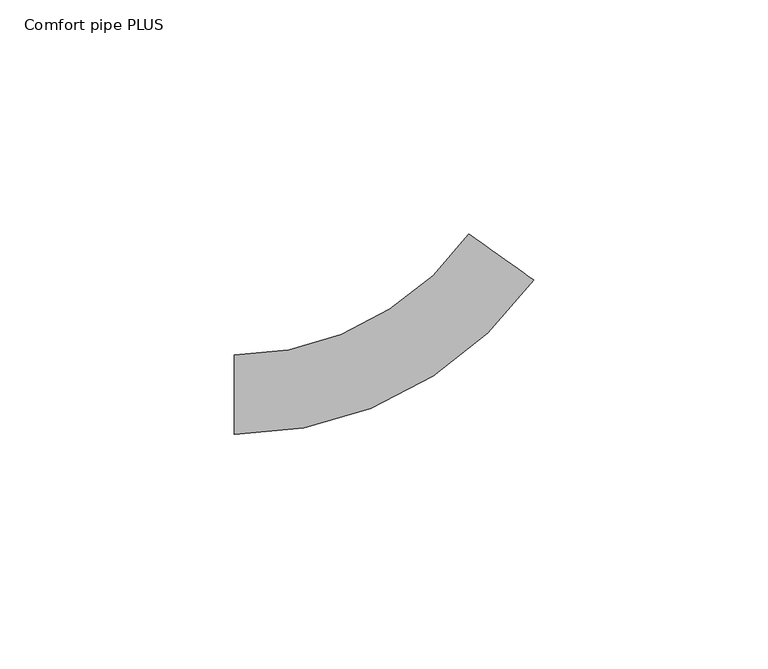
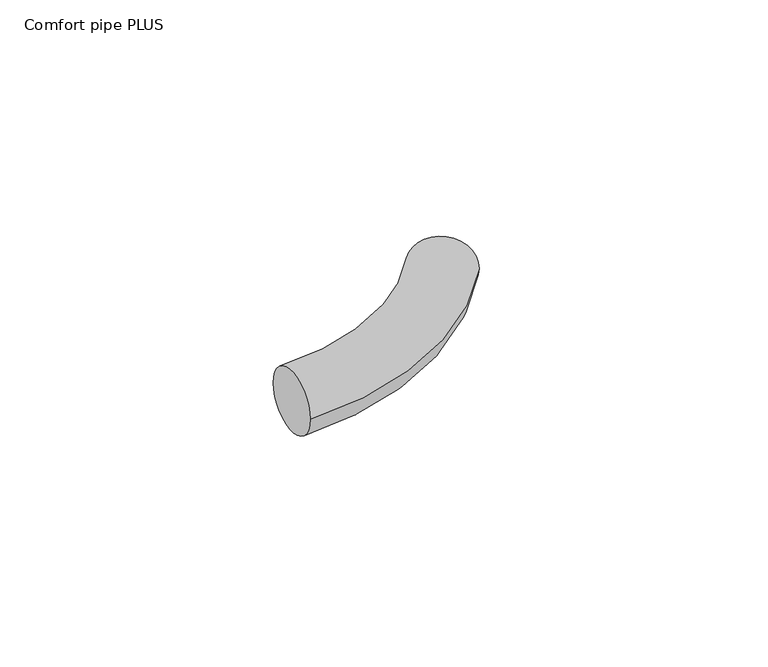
"""IFC4 building model written with IfcOpenShell, lengths in millimetres: pipe fitting geometry, 400_5-_Uponor_curved_Elbow : Comfort pipe PLUS."""

from ifc_helpers import new_model, si_unit, point, frame, origin, place, context, project, spatial, circle_curve, ellipse_curve, trimmed, source, transform, mapped, element, save
from ifc_brep_helpers import plane_surface, revolved_surface, advanced_brep


def comfort_pipe_plus_dd33a695(model_context):
    return source(origin(), model_context, "Body", "AdvancedBrep", [
        advanced_brep(
        [(-36.0856303, -8.5, 0.0), (-36.0856303, 8.5, 0.0), (27.8566517, 24.4628222, 0.0), (14.0092786, 34.3243766, 0.0)],
        [
            (0, 1, circle_curve(frame((-36.0856303, 0.0, 0.0), z_axis=(-1.0, 0.0, 0.0), x_axis=(0.0, 1.0, 0.0)), 8.5)),
            (1, 0, circle_curve(frame((-36.0856303, 0.0, 0.0), z_axis=(-1.0, 0.0, 0.0), x_axis=(0.0, 1.0, 0.0)), 8.5)),
            (2, 3, circle_curve(frame((20.9329652, 29.3935994, 0.0), z_axis=(0.5800914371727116, 0.8145513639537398, 0.0), x_axis=(-0.8145513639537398, 0.5800914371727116, 0.0)), 8.5)),
            (3, 2, circle_curve(frame((20.9329652, 29.3935994, 0.0), z_axis=(0.5800914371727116, 0.8145513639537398, 0.0), x_axis=(-0.8145513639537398, 0.5800914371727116, 0.0)), 8.5)),
            (3, 1, circle_curve(frame((-36.0856303, 70.0, 0.0), z_axis=(0.0, 0.0, -1.0), x_axis=(0.0, -1.0, 0.0)), 61.5)),
            (0, 2, circle_curve(frame((-36.0856303, 70.0, 0.0), z_axis=(0.0, 0.0, 1.0), x_axis=(0.0, -1.0, 0.0)), 78.5)),
        ],
        [
            plane_surface(frame((-36.0856303, 0.0, 0.0), z_axis=(-1.0, 0.0, 0.0), x_axis=(0.0, 0.0, 1.0))),
            plane_surface(frame((20.9329652, 29.3935994, 0.0), z_axis=(0.5800914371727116, 0.81455136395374, 0.0), x_axis=(0.0, 0.0, 1.0))),
            revolved_surface(trimmed(ellipse_curve(frame((-36.0856303, 0.0, 0.0), z_axis=(-1.0, 0.0, 0.0), x_axis=(0.0, 1.0, 0.0)), 8.5, 8.5), [point((-36.0856303, -8.5, 0.0))], [point((-36.0856303, 8.5, 0.0))], True, "CARTESIAN"), (-36.0856303, 70.0, 0.0), (0.0, 0.0, 1.0)),
            revolved_surface(trimmed(ellipse_curve(frame((-36.0856303, 0.0, 0.0), z_axis=(-1.0, 0.0, 0.0), x_axis=(0.0, 1.0, 0.0)), 8.5, 8.5), [point((-36.0856303, 8.5, 0.0))], [point((-36.0856303, -8.5, 0.0))], True, "CARTESIAN"), (-36.0856303, 70.0, 0.0), (0.0, 0.0, 1.0)),
        ],
        [
            (0, [[1, 2]]),
            (1, [[3, 4]]),
            (2, [[5, -1, 6, -4]]),
            (3, [[-6, -2, -5, -3]]),
        ],
    ),
    ])


if __name__ == "__main__":
    model = new_model("IFC4")
    model_context = context("Model", 3, world=origin())
    ifc_project = project(units=[si_unit("LENGTHUNIT", "METRE", prefix="MILLI")], contexts=[model_context])
    site = spatial("IfcSite", under=ifc_project)
    building = spatial("IfcBuilding", under=site)
    placement = place(None, origin())
    comfort_pipe_plus_shape = comfort_pipe_plus_dd33a695(model_context)
    element("IfcPipeFitting", 1, ObjectType="400_5-_Uponor_curved_Elbow : Comfort pipe PLUS", at=placement, inside=building, context=model_context, shape_type="MappedRepresentation", body=[
        mapped(comfort_pipe_plus_shape, transform((0.0, 0.0, 0.0), x_axis=(1.0, 0.0, 0.0), y_axis=(0.0, 1.0, 0.0), z_axis=(0.0, 0.0, 1.0))),
    ])
    save(model, "model.ifc")
